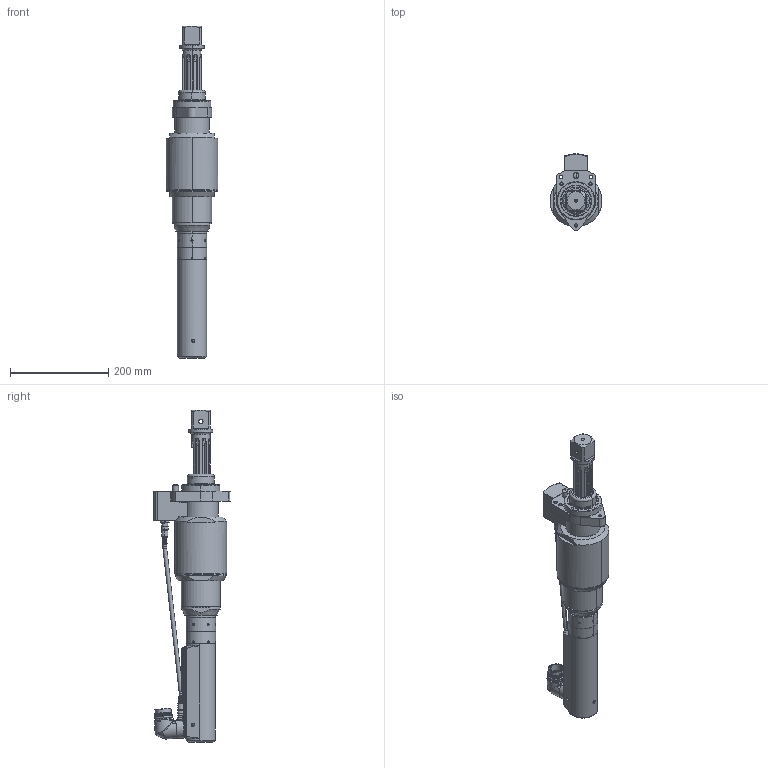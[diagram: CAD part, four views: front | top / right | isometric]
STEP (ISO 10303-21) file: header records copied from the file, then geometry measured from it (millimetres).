
FILE_DESCRIPTION((''),'2;1');
FILE_NAME('6151660390','2016-06-06T',('greextsd'),(''),'CREO PARAMETRIC BY PTC INC, 2016050','CREO PARAMETRIC BY PTC INC, 2016050','');
FILE_SCHEMA(('AUTOMOTIVE_DESIGN { 1 0 10303 214 1 1 1 1 }'));
Products named in the file (1): 6151660390
Bounding box: 106 x 155.96 x 677.1 mm (x, y, z)
Volume: 2173262.7 mm3; surface area: 446134.5 mm2
Topology: 1 solids, 4 shells, 1560 faces, 4207 edges, 2677 vertices
Faces by surface type: plane 635, cylinder 567, cone 219, torus 123, bspline 12, sphere 4
Entity records: 75735 total; most frequent: CARTESIAN_POINT 24935, ORIENTED_EDGE 8382, DIRECTION 8164, EDGE_CURVE 4191, AXIS2_PLACEMENT_3D 3180, VERTEX_POINT 2677, VECTOR 1804, LINE 1804
